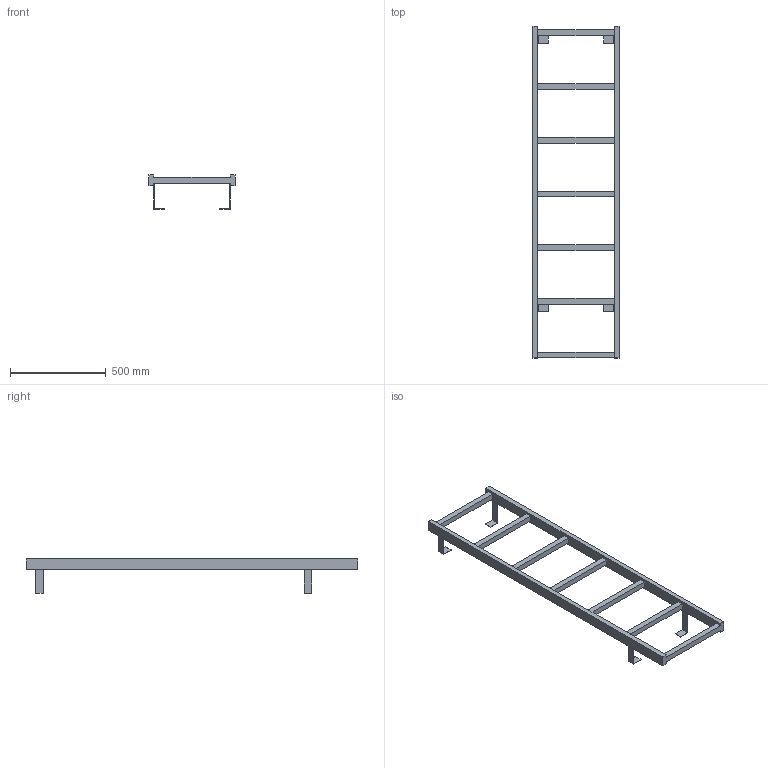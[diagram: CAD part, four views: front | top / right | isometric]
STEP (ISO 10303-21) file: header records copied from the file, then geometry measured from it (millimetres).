
FILE_DESCRIPTION((''),'2;1');
FILE_NAME('52311083','2024-10-17T13:06:11',('wep'),('HUBER SE'),'CREO PARAMETRIC BY PTC INC, 2022162','CREO PARAMETRIC BY PTC INC, 2022162','');
FILE_SCHEMA(('AUTOMOTIVE_DESIGN { 1 0 10303 214 1 1 1 1 }'));
Length unit declared in the file: millimetre
Products named in the file (1): 52311083
Bounding box: 450 x 1730 x 178.5 mm (x, y, z)
Volume: 7515460 mm3; surface area: 956028 mm2
Topology: 1 solids, 1 shells, 70 faces, 204 edges, 132 vertices
Faces by surface type: plane 70
Entity records: 2845 total; most frequent: CARTESIAN_POINT 408, ORIENTED_EDGE 408, DIRECTION 344, VECTOR 204, LINE 204, EDGE_CURVE 204, VERTEX_POINT 132, COLOUR_RGB 106
